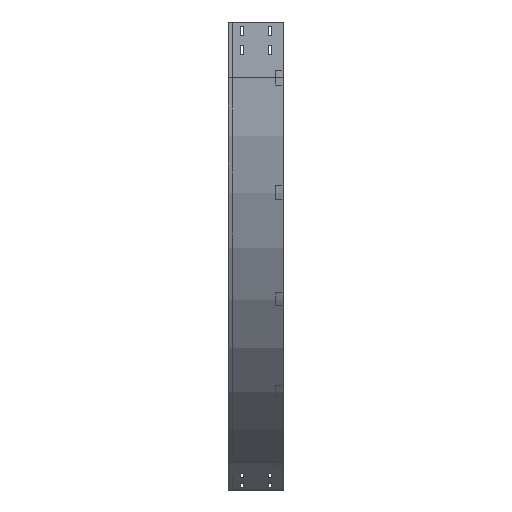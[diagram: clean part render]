
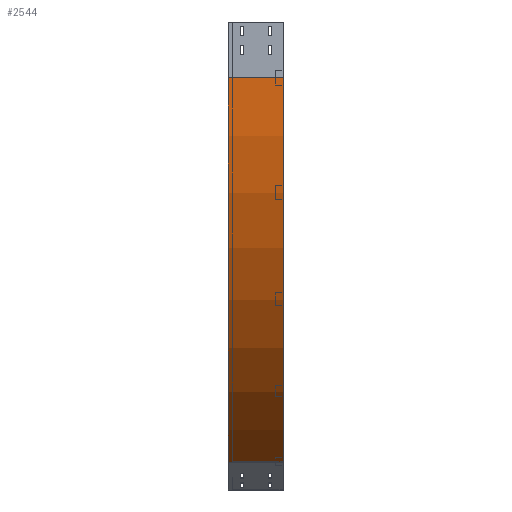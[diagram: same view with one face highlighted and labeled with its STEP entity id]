
A CAD part, left-side view. The second image highlights one B-rep face of the part: STEP entity #2544.
In plain terms, the highlighted cylindrical face has radius 1200 mm (diameter 2400 mm), a partial arc.
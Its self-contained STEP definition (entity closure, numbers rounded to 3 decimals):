
#68 = ORIENTED_EDGE ( 'NONE', *, *, #704, .F. ) ;
#102 = EDGE_CURVE ( 'NONE', #3282, #2216, #2799, .T. ) ;
#128 = EDGE_CURVE ( 'NONE', #3200, #2216, #2654, .T. ) ;
#704 = EDGE_CURVE ( 'NONE', #1325, #3200, #1299, .T. ) ;
#863 = DIRECTION ( 'NONE',  ( 0., -1., 0. ) ) ;
#1099 = VECTOR ( 'NONE', #1620, 1000. ) ;
#1134 = ORIENTED_EDGE ( 'NONE', *, *, #102, .T. ) ;
#1151 = CARTESIAN_POINT ( 'NONE',  ( 1200., 0., -150. ) ) ;
#1196 = DIRECTION ( 'NONE',  ( -1., 0., 0. ) ) ;
#1234 = CIRCLE ( 'NONE', #1667, 1200. ) ;
#1299 = LINE ( 'NONE', #1350, #3542 ) ;
#1325 = VERTEX_POINT ( 'NONE', #1959 ) ;
#1350 = CARTESIAN_POINT ( 'NONE',  ( 0., 0., -150. ) ) ;
#1390 = CARTESIAN_POINT ( 'NONE',  ( 1200., 0., -150. ) ) ;
#1487 = EDGE_CURVE ( 'NONE', #1325, #3282, #1234, .T. ) ;
#1620 = DIRECTION ( 'NONE',  ( 0., -1., 0. ) ) ;
#1667 = AXIS2_PLACEMENT_3D ( 'NONE', #2335, #1746, #1196 ) ;
#1746 = DIRECTION ( 'NONE',  ( 0., -1., 0. ) ) ;
#1948 = FACE_OUTER_BOUND ( 'NONE', #3621, .T. ) ;
#1959 = CARTESIAN_POINT ( 'NONE',  ( 0., 150., -150. ) ) ;
#2216 = VERTEX_POINT ( 'NONE', #3320 ) ;
#2245 = DIRECTION ( 'NONE',  ( 0., -1., 0. ) ) ;
#2335 = CARTESIAN_POINT ( 'NONE',  ( 1200., 150., -150. ) ) ;
#2507 = CARTESIAN_POINT ( 'NONE',  ( 600., 0., -1189.23 ) ) ;
#2511 = ORIENTED_EDGE ( 'NONE', *, *, #1487, .T. ) ;
#2544 = ADVANCED_FACE ( 'NONE', ( #1948 ), #2902, .T. ) ;
#2587 = DIRECTION ( 'NONE',  ( 0., -1., 0. ) ) ;
#2627 = ORIENTED_EDGE ( 'NONE', *, *, #128, .F. ) ;
#2654 = CIRCLE ( 'NONE', #2972, 1200. ) ;
#2799 = LINE ( 'NONE', #2507, #1099 ) ;
#2902 = CYLINDRICAL_SURFACE ( 'NONE', #2979, 1200. ) ;
#2972 = AXIS2_PLACEMENT_3D ( 'NONE', #1151, #863, #3482 ) ;
#2979 = AXIS2_PLACEMENT_3D ( 'NONE', #1390, #2587, #3474 ) ;
#3200 = VERTEX_POINT ( 'NONE', #3649 ) ;
#3282 = VERTEX_POINT ( 'NONE', #3388 ) ;
#3320 = CARTESIAN_POINT ( 'NONE',  ( 600., 0., -1189.23 ) ) ;
#3388 = CARTESIAN_POINT ( 'NONE',  ( 600., 150., -1189.23 ) ) ;
#3474 = DIRECTION ( 'NONE',  ( 0., 0., -1. ) ) ;
#3482 = DIRECTION ( 'NONE',  ( -1., 0., 0. ) ) ;
#3542 = VECTOR ( 'NONE', #2245, 1000. ) ;
#3621 = EDGE_LOOP ( 'NONE', ( #2627, #68, #2511, #1134 ) ) ;
#3649 = CARTESIAN_POINT ( 'NONE',  ( 0., 0., -150. ) ) ;
